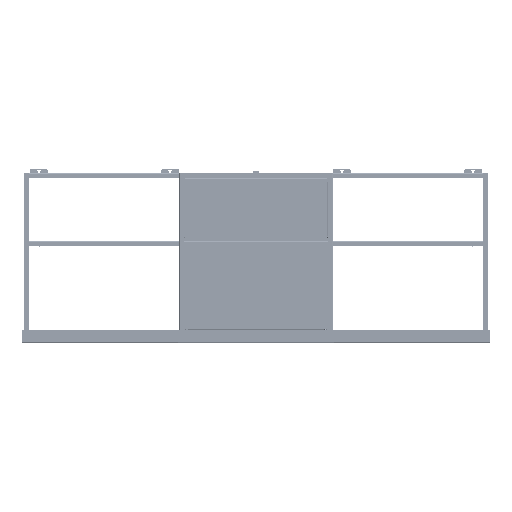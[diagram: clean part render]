
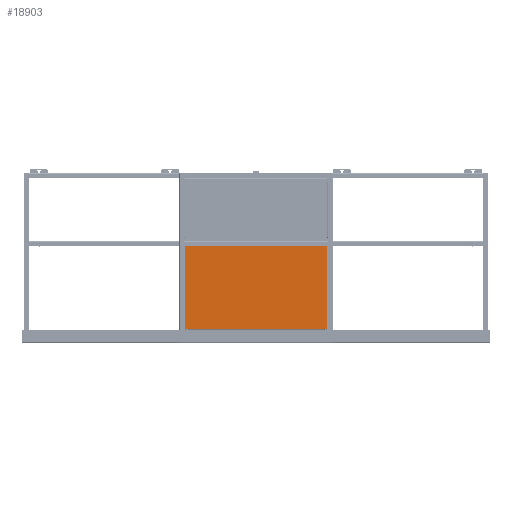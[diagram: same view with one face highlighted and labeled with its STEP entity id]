
A CAD part, front view. The second image highlights one B-rep face of the part: STEP entity #18903.
In plain terms, the highlighted planar face has unit normal (0, -1, 0) as drawn and (0, 0, 1) by its records, which use the part's own axes.
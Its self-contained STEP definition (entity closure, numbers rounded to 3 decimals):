
#18903=ADVANCED_FACE('',(#26809),#117954,.T.);
#26809=FACE_OUTER_BOUND('',#34193,.T.);
#34193=EDGE_LOOP('',(#54256,#54257,#54258,#54259,#54260,#54261,#54262,#54263));
#54256=ORIENTED_EDGE('',*,*,#81093,.F.);
#54257=ORIENTED_EDGE('',*,*,#81094,.T.);
#54258=ORIENTED_EDGE('',*,*,#81095,.T.);
#54259=ORIENTED_EDGE('',*,*,#81090,.F.);
#54260=ORIENTED_EDGE('',*,*,#81096,.T.);
#54261=ORIENTED_EDGE('',*,*,#81097,.T.);
#54262=ORIENTED_EDGE('',*,*,#81038,.F.);
#54263=ORIENTED_EDGE('',*,*,#81085,.F.);
#81038=EDGE_CURVE('',#109119,#109120,#97071,.T.);
#81085=EDGE_CURVE('',#109147,#109119,#97099,.T.);
#81090=EDGE_CURVE('',#109151,#109148,#97104,.T.);
#81093=EDGE_CURVE('',#109153,#109147,#97107,.T.);
#81094=EDGE_CURVE('',#109153,#109154,#97108,.T.);
#81095=EDGE_CURVE('',#109154,#109148,#97109,.T.);
#81096=EDGE_CURVE('',#109151,#109155,#97110,.T.);
#81097=EDGE_CURVE('',#109155,#109120,#97111,.T.);
#97071=B_SPLINE_CURVE_WITH_KNOTS('',1,(#195257,#195258),.UNSPECIFIED.,.F.,
 .F.,(2,2),(0.,318.8),.UNSPECIFIED.);
#97099=B_SPLINE_CURVE_WITH_KNOTS('',1,(#195370,#195371),.UNSPECIFIED.,.F.,
 .F.,(2,2),(0.,0.5),.UNSPECIFIED.);
#97104=B_SPLINE_CURVE_WITH_KNOTS('',1,(#195380,#195381),.UNSPECIFIED.,.F.,
 .F.,(2,2),(0.,0.5),.UNSPECIFIED.);
#97107=B_SPLINE_CURVE_WITH_KNOTS('',1,(#195386,#195387),.UNSPECIFIED.,.F.,
 .F.,(2,2),(0.,1.2),.UNSPECIFIED.);
#97108=B_SPLINE_CURVE_WITH_KNOTS('',1,(#195388,#195389),.UNSPECIFIED.,.F.,
 .F.,(2,2),(0.,583.6),.UNSPECIFIED.);
#97109=B_SPLINE_CURVE_WITH_KNOTS('',1,(#195390,#195391),.UNSPECIFIED.,.F.,
 .F.,(2,2),(0.,1.2),.UNSPECIFIED.);
#97110=B_SPLINE_CURVE_WITH_KNOTS('',1,(#195392,#195393),.UNSPECIFIED.,.F.,
 .F.,(2,2),(0.,318.8),.UNSPECIFIED.);
#97111=B_SPLINE_CURVE_WITH_KNOTS('',1,(#195394,#195395),.UNSPECIFIED.,.F.,
 .F.,(2,2),(0.,584.6),.UNSPECIFIED.);
#109119=VERTEX_POINT('',#194941);
#109120=VERTEX_POINT('',#194942);
#109147=VERTEX_POINT('',#194969);
#109148=VERTEX_POINT('',#194970);
#109151=VERTEX_POINT('',#194973);
#109153=VERTEX_POINT('',#194975);
#109154=VERTEX_POINT('',#194976);
#109155=VERTEX_POINT('',#194977);
#117954=PLANE('',#128701);
#128701=AXIS2_PLACEMENT_3D('',#194295,#143444,$);
#143444=DIRECTION('',(0.,0.,1.));
#194295=CARTESIAN_POINT('',(-350.772,-191.892,0.));
#194941=CARTESIAN_POINT('',(-292.3,-160.,0.));
#194942=CARTESIAN_POINT('',(-292.3,158.8,0.));
#194969=CARTESIAN_POINT('',(-291.8,-160.,0.));
#194970=CARTESIAN_POINT('',(291.8,-160.,0.));
#194973=CARTESIAN_POINT('',(292.3,-160.,0.));
#194975=CARTESIAN_POINT('',(-291.8,-158.8,0.));
#194976=CARTESIAN_POINT('',(291.8,-158.8,0.));
#194977=CARTESIAN_POINT('',(292.3,158.8,0.));
#195257=CARTESIAN_POINT('',(-292.3,-160.,0.));
#195258=CARTESIAN_POINT('',(-292.3,158.8,0.));
#195370=CARTESIAN_POINT('',(-291.8,-160.,0.));
#195371=CARTESIAN_POINT('',(-292.3,-160.,0.));
#195380=CARTESIAN_POINT('',(292.3,-160.,0.));
#195381=CARTESIAN_POINT('',(291.8,-160.,0.));
#195386=CARTESIAN_POINT('',(-291.8,-158.8,0.));
#195387=CARTESIAN_POINT('',(-291.8,-160.,0.));
#195388=CARTESIAN_POINT('',(-291.8,-158.8,0.));
#195389=CARTESIAN_POINT('',(291.8,-158.8,0.));
#195390=CARTESIAN_POINT('',(291.8,-158.8,0.));
#195391=CARTESIAN_POINT('',(291.8,-160.,0.));
#195392=CARTESIAN_POINT('',(292.3,-160.,0.));
#195393=CARTESIAN_POINT('',(292.3,158.8,0.));
#195394=CARTESIAN_POINT('',(292.3,158.8,0.));
#195395=CARTESIAN_POINT('',(-292.3,158.8,0.));
